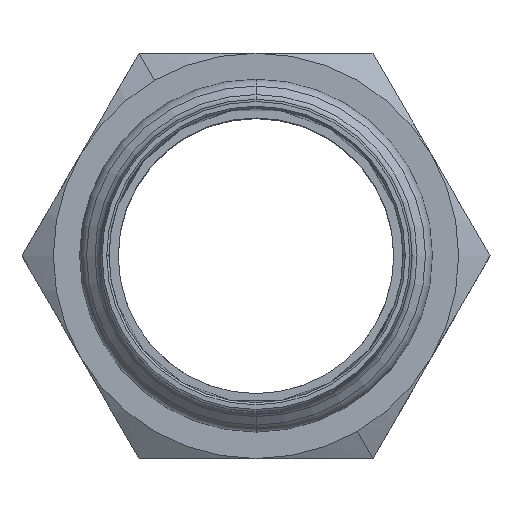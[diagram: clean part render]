
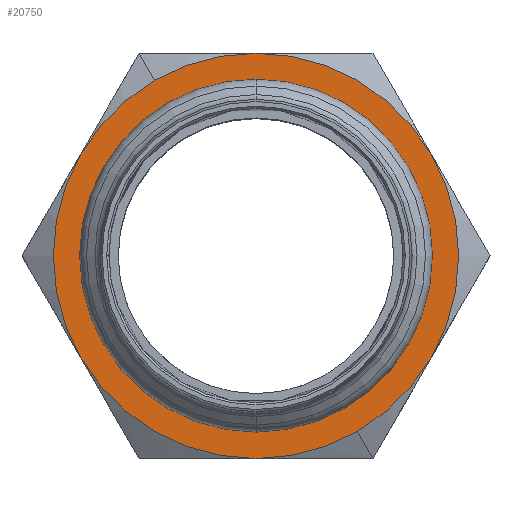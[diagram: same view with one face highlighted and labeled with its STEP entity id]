
A CAD part, top view. The second image highlights one B-rep face of the part: STEP entity #20750.
In plain terms, the highlighted planar face has unit normal (0, 0, 1) as drawn and (0, 0, -1) by its records, which use the part's own axes.
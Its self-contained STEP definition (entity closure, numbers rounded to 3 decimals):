
#20120=CARTESIAN_POINT('',(0.,0.,0.));
#20130=DIRECTION('',(0.,0.,1.));
#20140=DIRECTION('',(1.,0.,0.));
#20150=AXIS2_PLACEMENT_3D('',#20120,#20130,#20140);
#20160=PLANE('',#20150);
#20170=CARTESIAN_POINT('',(37.212,65.721,0.));
#20180=DIRECTION('',(0.,0.,1.));
#20190=DIRECTION('',(1.,0.,0.));
#20200=AXIS2_PLACEMENT_3D('',#20170,#20180,#20190);
#20210=CIRCLE('',#20200,32.4);
#20220=CARTESIAN_POINT('',(4.812,65.721,0.));
#20230=VERTEX_POINT('',#20220);
#20240=CARTESIAN_POINT('',(69.612,65.721,0.));
#20250=VERTEX_POINT('',#20240);
#20260=EDGE_CURVE('',#20230,#20250,#20210,.T.);
#20270=ORIENTED_EDGE('',*,*,#20260,.T.);
#20280=CARTESIAN_POINT('',(53.412,93.781,0.));
#20290=VERTEX_POINT('',#20280);
#20300=EDGE_CURVE('',#20290,#20230,#20210,.T.);
#20310=ORIENTED_EDGE('',*,*,#20300,.T.);
#20320=EDGE_CURVE('',#20250,#20290,#20210,.T.);
#20330=ORIENTED_EDGE('',*,*,#20320,.T.);
#20340=EDGE_LOOP('',(#20330,#20310,#20270));
#20350=FACE_BOUND('',#20340,.T.);
#20360=CARTESIAN_POINT('',(37.212,65.721,0.));
#20370=DIRECTION('',(0.,0.,1.));
#20380=DIRECTION('',(0.5,0.866,0.));
#20390=AXIS2_PLACEMENT_3D('',#20360,#20370,#20380);
#20400=CIRCLE('',#20390,37.5);
#20410=CARTESIAN_POINT('',(37.212,103.221,0.));
#20420=VERTEX_POINT('',#20410);
#20430=CARTESIAN_POINT('',(4.736,84.471,
0.));
#20440=VERTEX_POINT('',#20430);
#20450=EDGE_CURVE('',#20420,#20440,#20400,.T.);
#20460=ORIENTED_EDGE('',*,*,#20450,.F.);
#20470=CARTESIAN_POINT('',(4.736,46.971,
0.));
#20480=VERTEX_POINT('',#20470);
#20490=EDGE_CURVE('',#20440,#20480,#20400,.T.);
#20500=ORIENTED_EDGE('',*,*,#20490,.F.);
#20510=CARTESIAN_POINT('',(18.462,33.245,0.
));
#20520=VERTEX_POINT('',#20510);
#20530=EDGE_CURVE('',#20480,#20520,#20400,.T.);
#20540=ORIENTED_EDGE('',*,*,#20530,.F.);
#20550=CARTESIAN_POINT('',(37.212,28.221,0.));
#20560=VERTEX_POINT('',#20550);
#20570=EDGE_CURVE('',#20520,#20560,#20400,.T.);
#20580=ORIENTED_EDGE('',*,*,#20570,.F.);
#20590=CARTESIAN_POINT('',(69.688,46.971,
0.));
#20600=VERTEX_POINT('',#20590);
#20610=EDGE_CURVE('',#20560,#20600,#20400,.T.);
#20620=ORIENTED_EDGE('',*,*,#20610,.F.);
#20630=CARTESIAN_POINT('',(69.688,84.471,
0.));
#20640=VERTEX_POINT('',#20630);
#20650=EDGE_CURVE('',#20600,#20640,#20400,.T.);
#20660=ORIENTED_EDGE('',*,*,#20650,.F.);
#20670=CARTESIAN_POINT('',(55.962,98.197,
0.));
#20680=VERTEX_POINT('',#20670);
#20690=EDGE_CURVE('',#20640,#20680,#20400,.T.);
#20700=ORIENTED_EDGE('',*,*,#20690,.F.);
#20710=EDGE_CURVE('',#20680,#20420,#20400,.T.);
#20720=ORIENTED_EDGE('',*,*,#20710,.F.);
#20730=EDGE_LOOP('',(#20720,#20700,#20660,#20620,#20580,#20540,#20500,
#20460));
#20740=FACE_OUTER_BOUND('',#20730,.T.);
#20750=ADVANCED_FACE('',(#20350,#20740),#20160,.F.);
